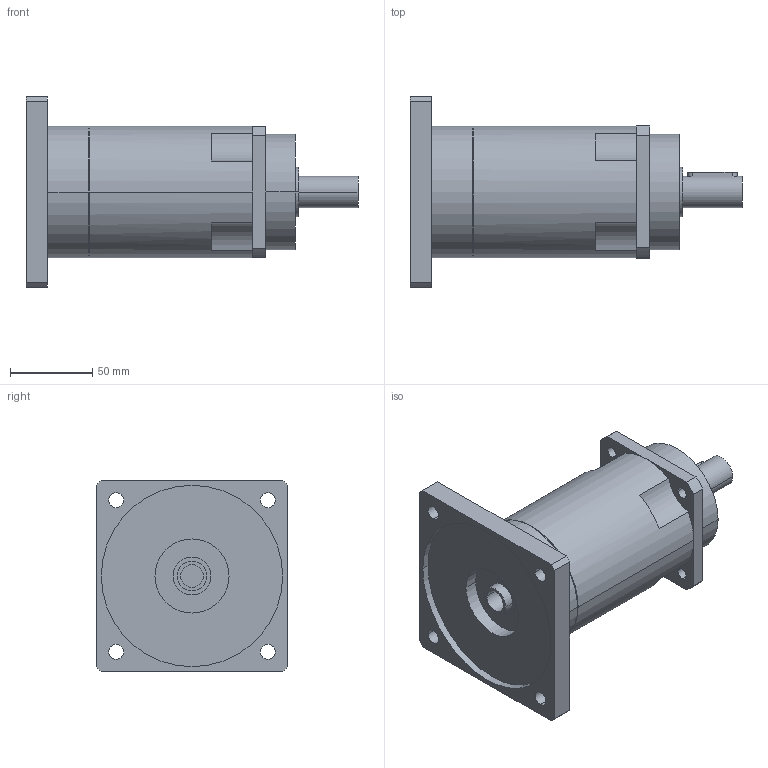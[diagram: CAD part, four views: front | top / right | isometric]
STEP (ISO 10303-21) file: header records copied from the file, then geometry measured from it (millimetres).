
FILE_DESCRIPTION(('CoCreate Modeling STEP Export'),'2;1');
FILE_NAME('GPR100_ig-48-64-80-100-120-144-180-216_19_B5_14_P08.stp','2014-08-26T11:55:04',(''),(''),'CoCreate Modeling STEP processor for AP214 (Solid Model)','CoCreate Modeling 16.00C 25-Feb-2009 (C) Parametric Technology GmbH','');
FILE_SCHEMA(('AUTOMOTIVE_DESIGN { 1 0 10303 214 1 1 1 1 }'));
Length unit declared in the file: millimetre
Products named in the file (2): GPR100_ig-48-64-80-100-120-144-180-216_19_B5_14_P08
Assembly tree (1 placements, depth 2):
  GPR100_ig-48-64-80-100-120-144-180-216_19_B5_14_P08
    GPR100_ig-48-64-80-100-120-144-180-216_19_B5_14_P08
Bounding box: 201.4 x 116 x 116 mm (x, y, z)
Volume: 859654.8 mm3; surface area: 82518.6 mm2
Topology: 1 solids, 1 shells, 89 faces, 247 edges, 169 vertices
Faces by surface type: cylinder 52, plane 31, cone 6
Entity records: 2612 total; most frequent: ORIENTED_EDGE 490, CARTESIAN_POINT 474, DIRECTION 386, EDGE_CURVE 245, VERTEX_POINT 169, AXIS2_PLACEMENT_3D 145, EDGE_LOOP 116, VECTOR 96
